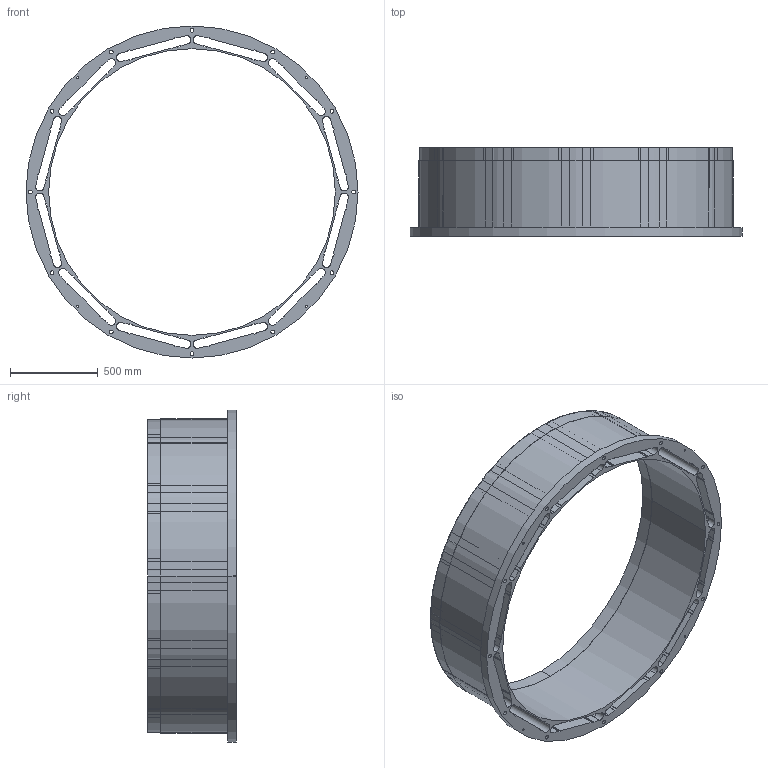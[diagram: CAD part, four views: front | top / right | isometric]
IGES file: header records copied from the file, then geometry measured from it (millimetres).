
Start section:  PTC IGES file: cst_tf.igs
Global section: file name: cst_tf.igs; native system: Pro/ENGINEER by Parametric Technology Corporation; preprocessor: 1999260; author: oshatz; organization: Unknown; date: 000922.101654; units: millimetre
Bounding box: 1889.99 x 505 x 1889.99 mm (x, y, z)
Surface area: 12247047.2 mm2 (no closed solid volume)
Topology: 0 solids, 0 shells, 287 faces, 1692 edges, 1692 vertices
Faces by surface type: bspline 221, revolution 66
